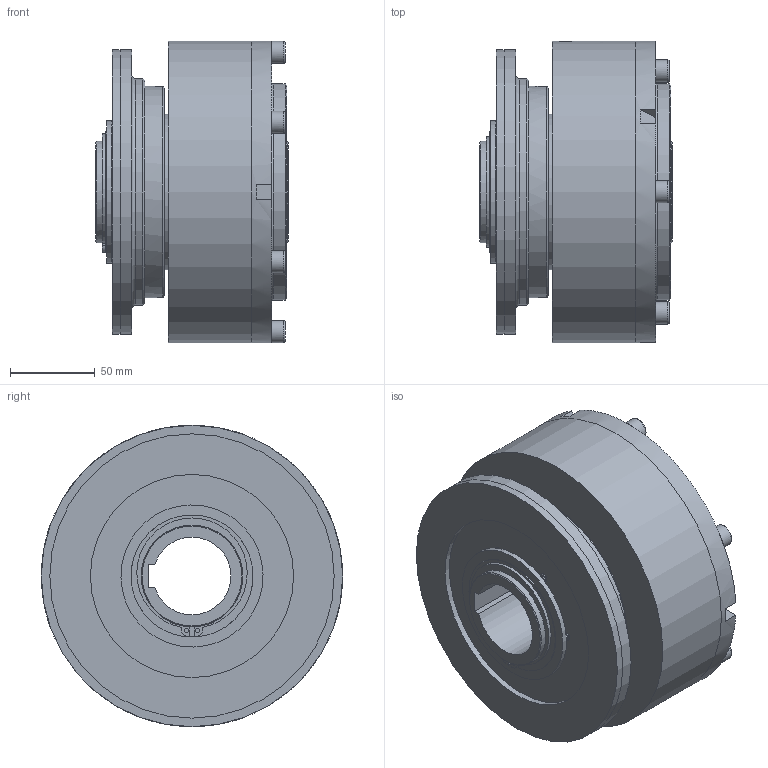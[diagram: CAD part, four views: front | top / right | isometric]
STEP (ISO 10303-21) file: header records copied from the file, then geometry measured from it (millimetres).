
FILE_DESCRIPTION(/* description */ (''),/* implementation_level */ '2;1');
FILE_NAME(/* name */ 'X:\INVENTOR\DISEGNI\03_Friz_Oleod_Pneum_Cil_Stat\03_53 MP-N\03_53_04_01 MP-N04\03_53_04_01 MP-N04@STEP.stp',/* time_stamp */ '2023-02-06T11:21:24+01:00',/* author */ ('alessio'),/* organization */ (''),/* preprocessor_version */ 'ST-DEVELOPER v18.1',/* originating_system */ 'Autodesk Inventor 2021',/* authorisation */ '');
FILE_SCHEMA (('AUTOMOTIVE_DESIGN { 1 0 10303 214 3 1 1 }'));
Products named in the file (1): 03_53_04_01 MP-N04
Bounding box: 114 x 178 x 178 mm (x, y, z)
Volume: 1665501.4 mm3; surface area: 391782.6 mm2
Topology: 2 solids, 14 shells, 1237 faces, 3589 edges, 2363 vertices
Faces by surface type: cylinder 481, torus 249, bspline 230, plane 225, cone 31, sphere 21
Full cylindrical faces by diameter (mm): 2.5 x4, 3.5 x2, 5.25 x6, 6.647 x6, 8 x7, 8.5 x6, 8.566 x1, 9.5 x20, 13 x6, 57 x2, 60 x5, 62.5 x1, 70 x1, 72 x2, 76 x2, 78.5 x1, 80 x2, 84 x1, 92 x4, 94 x2, 94.4 x2, 95 x1, 101.5 x2, 110 x3, 110.6 x2, 111 x1, 114 x1, 120 x1, 125 x2, 128 x1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
Entity records: 82396 total; most frequent: CARTESIAN_POINT 49051, ORIENTED_EDGE 7068, DIRECTION 6541, EDGE_CURVE 3534, AXIS2_PLACEMENT_3D 2904, VERTEX_POINT 2363, CIRCLE 1889, EDGE_LOOP 1421
